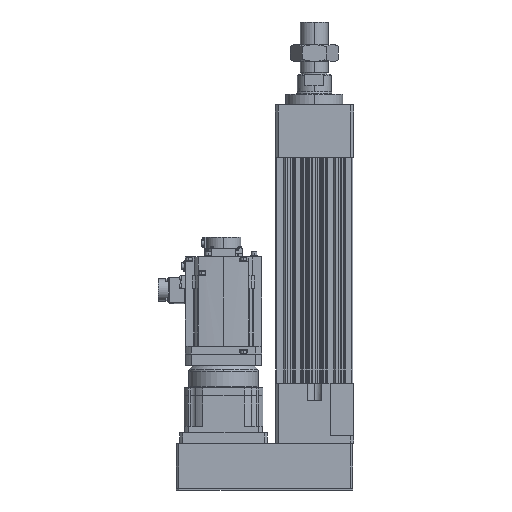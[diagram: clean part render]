
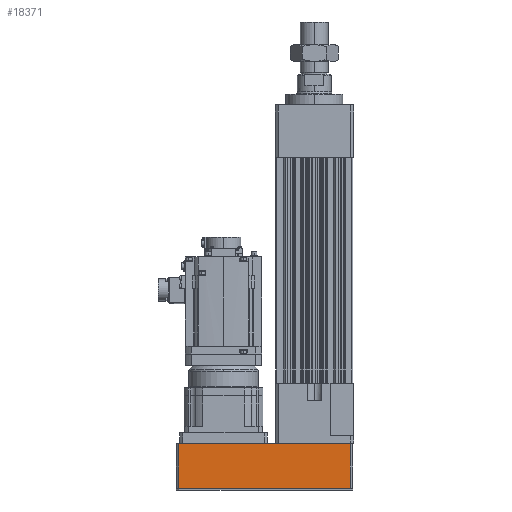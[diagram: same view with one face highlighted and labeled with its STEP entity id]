
A CAD part, left-side view. The second image highlights one B-rep face of the part: STEP entity #18371.
In plain terms, the highlighted planar face has unit normal (-1, 0, 0).
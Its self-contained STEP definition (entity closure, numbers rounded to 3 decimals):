
#716 = VECTOR ( 'NONE', #26175, 1000. ) ;
#1615 = EDGE_LOOP ( 'NONE', ( #12535, #7268, #55230, #38796 ) ) ;
#3052 = CARTESIAN_POINT ( 'NONE',  ( -88., -310., 0.5 ) ) ;
#5226 = CARTESIAN_POINT ( 'NONE',  ( -88., -310., 103.5 ) ) ;
#7268 = ORIENTED_EDGE ( 'NONE', *, *, #46117, .T. ) ;
#8451 = VECTOR ( 'NONE', #21298, 1000. ) ;
#9641 = VECTOR ( 'NONE', #23336, 1000. ) ;
#11038 = CARTESIAN_POINT ( 'NONE',  ( -88., 88., 104. ) ) ;
#12517 = CARTESIAN_POINT ( 'NONE',  ( -88., 82., 104. ) ) ;
#12535 = ORIENTED_EDGE ( 'NONE', *, *, #25253, .T. ) ;
#16611 = EDGE_CURVE ( 'NONE', #43192, #35413, #39693, .T. ) ;
#16833 = CARTESIAN_POINT ( 'NONE',  ( -88., 82., 103.5 ) ) ;
#18371 = ADVANCED_FACE ( 'NONE', ( #34293 ), #49583, .F. ) ;
#21298 = DIRECTION ( 'NONE',  ( 0., 1., 0. ) ) ;
#21743 = LINE ( 'NONE', #31618, #9641 ) ;
#23336 = DIRECTION ( 'NONE',  ( 0., -1., 0. ) ) ;
#23540 = EDGE_CURVE ( 'NONE', #35413, #48462, #24555, .T. ) ;
#23771 = DIRECTION ( 'NONE',  ( 1., 0., 0. ) ) ;
#24555 = LINE ( 'NONE', #29561, #8451 ) ;
#25253 = EDGE_CURVE ( 'NONE', #48462, #55523, #27418, .T. ) ;
#26175 = DIRECTION ( 'NONE',  ( 0., 0., 1. ) ) ;
#27418 = LINE ( 'NONE', #12517, #37538 ) ;
#29561 = CARTESIAN_POINT ( 'NONE',  ( -88., 82., 103.5 ) ) ;
#31148 = AXIS2_PLACEMENT_3D ( 'NONE', #11038, #23771, #33000 ) ;
#31618 = CARTESIAN_POINT ( 'NONE',  ( -88., 88., 0.5 ) ) ;
#33000 = DIRECTION ( 'NONE',  ( 0., 1., 0. ) ) ;
#34293 = FACE_OUTER_BOUND ( 'NONE', #1615, .T. ) ;
#35413 = VERTEX_POINT ( 'NONE', #5226 ) ;
#36578 = CARTESIAN_POINT ( 'NONE',  ( -88., 82., 0.5 ) ) ;
#37538 = VECTOR ( 'NONE', #47086, 1000. ) ;
#38796 = ORIENTED_EDGE ( 'NONE', *, *, #23540, .T. ) ;
#39693 = LINE ( 'NONE', #51627, #716 ) ;
#43192 = VERTEX_POINT ( 'NONE', #3052 ) ;
#46117 = EDGE_CURVE ( 'NONE', #55523, #43192, #21743, .T. ) ;
#47086 = DIRECTION ( 'NONE',  ( 0., 0., -1. ) ) ;
#48462 = VERTEX_POINT ( 'NONE', #16833 ) ;
#49583 = PLANE ( 'NONE',  #31148 ) ;
#51627 = CARTESIAN_POINT ( 'NONE',  ( -88., -310., 104. ) ) ;
#55230 = ORIENTED_EDGE ( 'NONE', *, *, #16611, .T. ) ;
#55523 = VERTEX_POINT ( 'NONE', #36578 ) ;
